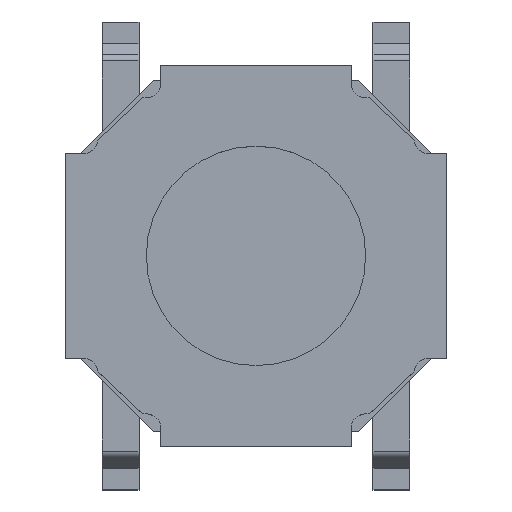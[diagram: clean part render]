
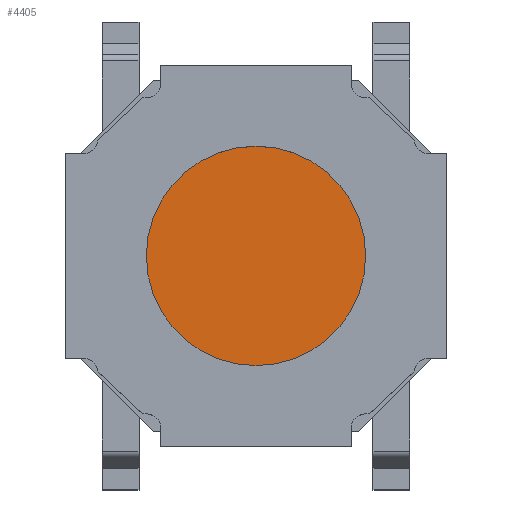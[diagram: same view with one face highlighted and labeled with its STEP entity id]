
A CAD part, top view. The second image highlights one B-rep face of the part: STEP entity #4405.
In plain terms, the highlighted planar face has unit normal (0, 0, 1).
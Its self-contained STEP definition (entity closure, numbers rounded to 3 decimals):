
#1531=CARTESIAN_POINT('',(0.,0.,0.75));
#1532=DIRECTION('',(0.,0.,1.));
#1533=DIRECTION('',(0.,-1.,0.));
#1534=AXIS2_PLACEMENT_3D('',#1531,#1532,#1533);
#1536=CARTESIAN_POINT('',(0.,0.,0.75));
#1537=DIRECTION('',(0.,0.,1.));
#1538=DIRECTION('',(0.,1.,0.));
#1539=AXIS2_PLACEMENT_3D('',#1536,#1537,#1538);
#1858=CARTESIAN_POINT('',(0.,1.5,0.75));
#1860=VERTEX_POINT('',#1858);
#1863=CARTESIAN_POINT('',(0.,-1.5,0.75));
#1864=VERTEX_POINT('',#1863);
#4396=CARTESIAN_POINT('',(0.,0.,0.75));
#4397=DIRECTION('',(0.,0.,1.));
#4398=DIRECTION('',(1.,0.,0.));
#4399=AXIS2_PLACEMENT_3D('',#4396,#4397,#4398);
#4400=PLANE('',#4399);
#4401=ORIENTED_EDGE('',*,*,#4391,.F.);
#4402=ORIENTED_EDGE('',*,*,#4375,.F.);
#4403=EDGE_LOOP('',(#4401,#4402));
#4404=FACE_OUTER_BOUND('',#4403,.F.);
#4405=ADVANCED_FACE('',(#4404),#4400,.T.);
#1535=CIRCLE('',#1534,1.5);
#1540=CIRCLE('',#1539,1.5);
#4375=EDGE_CURVE('',#1860,#1864,#1540,.T.);
#4391=EDGE_CURVE('',#1864,#1860,#1535,.T.);
